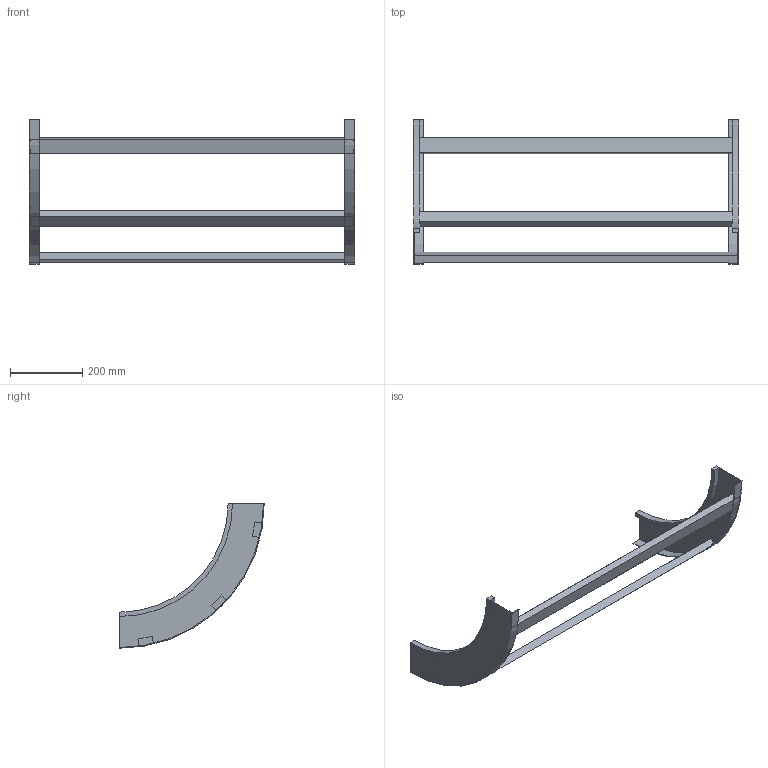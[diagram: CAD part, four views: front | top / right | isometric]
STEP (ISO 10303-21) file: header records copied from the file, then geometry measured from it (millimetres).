
FILE_DESCRIPTION (( 'STEP AP214' ), '1' );
FILE_NAME ('B2X30B3D900XX.step', '2025-03-20T10:20:33', ( '' ), ( '' ), 'SwSTEP 2.0', 'SolidWorks 2023', '' );
FILE_SCHEMA (( 'AUTOMOTIVE_DESIGN' ));
Length unit declared in the file: millimetre
Products named in the file (3): B2_LONGH.SALITA_90°_H100_R300; TRAVERSINO_900; B2X30B3D900XX
Assembly tree (5 placements, depth 2):
  B2X30B3D900XX
    B2_LONGH.SALITA_90°_H100_R300  x2
    TRAVERSINO_900  x3
Bounding box: 900 x 400 x 400 mm (x, y, z)
Volume: 2644441.1 mm3; surface area: 649623 mm2
Topology: 5 solids, 5 shells, 38 faces, 84 edges, 56 vertices
Faces by surface type: plane 30, cylinder 8
Entity records: 560 total; most frequent: DIRECTION 92, CARTESIAN_POINT 84, ORIENTED_EDGE 72, EDGE_CURVE 36, AXIS2_PLACEMENT_3D 32, VECTOR 28, LINE 28, VERTEX_POINT 24
